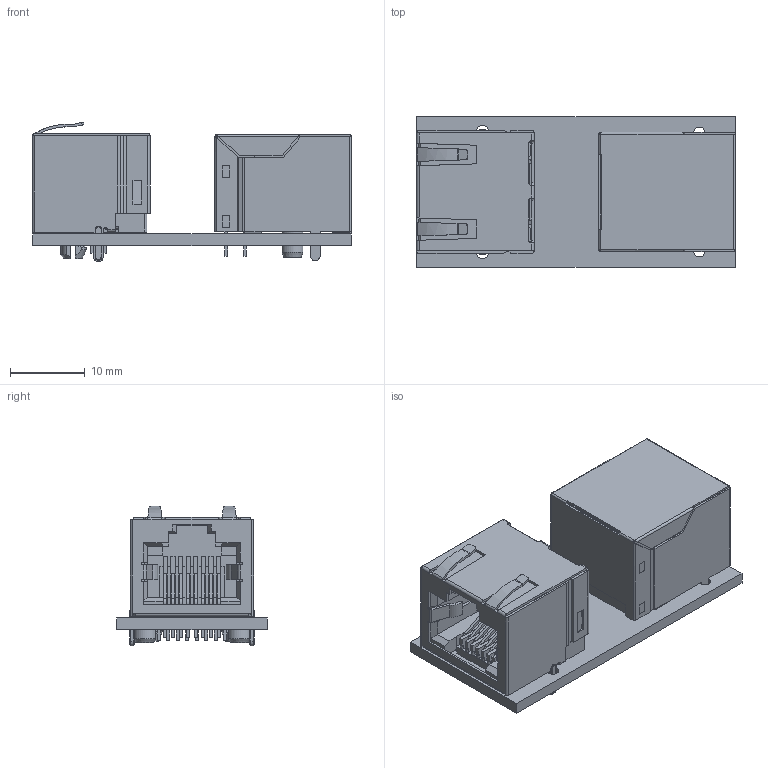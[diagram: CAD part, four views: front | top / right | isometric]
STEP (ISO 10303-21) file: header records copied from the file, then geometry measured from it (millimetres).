
FILE_DESCRIPTION((''),'2;1');
FILE_NAME('PCB_ASM','2022-10-19T16:19:50',('Administrator'),(''),'CREO PARAMETRIC BY PTC INC, 2019010','CREO PARAMETRIC BY PTC INC, 2019010','');
FILE_SCHEMA(('CONFIG_CONTROL_DESIGN'));
Length unit declared in the file: millimetre
Products named in the file (4): PCB; DGKYD561188HWA2DB7048; PRT0001; PCB_ASM
Assembly tree (3 placements, depth 2):
  PCB_ASM
    PCB
    DGKYD561188HWA2DB7048
    PRT0001
Bounding box: 42.75 x 20.2 x 18.75 mm (x, y, z)
Volume: 5552.1 mm3; surface area: 12810.6 mm2
Topology: 3 solids, 5 shells, 1581 faces, 4847 edges, 3129 vertices
Faces by surface type: plane 1152, cylinder 330, cone 50, torus 26, bspline 21, sphere 2
Entity records: 55200 total; most frequent: CARTESIAN_POINT 11363, ORIENTED_EDGE 9690, DIRECTION 8551, EDGE_CURVE 4845, VECTOR 3757, LINE 3757, VERTEX_POINT 3129, AXIS2_PLACEMENT_3D 2397
